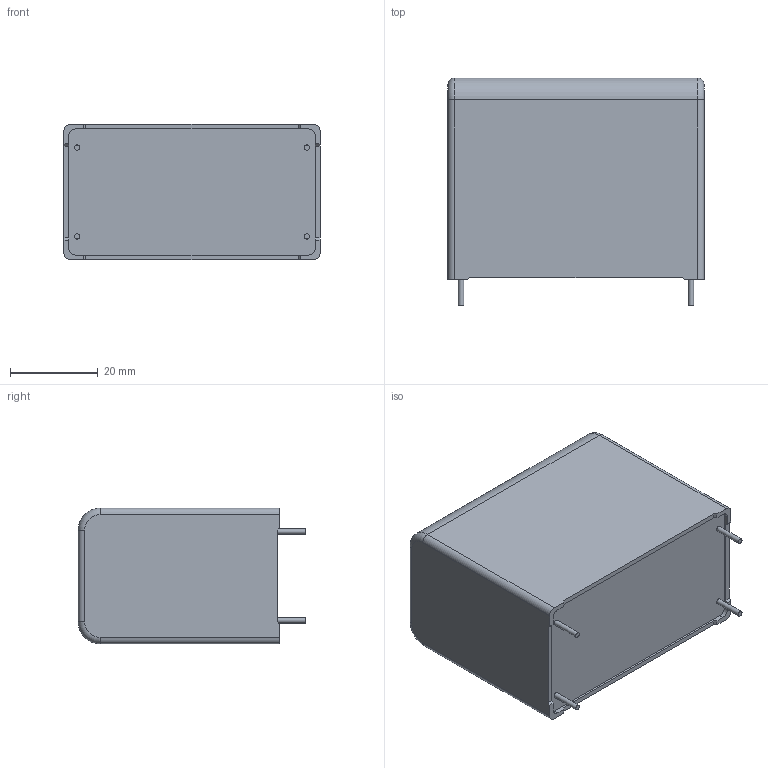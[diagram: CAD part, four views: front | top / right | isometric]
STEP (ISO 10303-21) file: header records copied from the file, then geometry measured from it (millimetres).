
FILE_DESCRIPTION (( 'STEP AP203' ), '1' );
FILE_NAME ('MKP1847H61531+Y5.step', '2018-01-17T10:52:19', ( 'work' ), ( 'Hewlett-Packard Company' ), 'SwSTEP 2.0', 'SolidWorks 2017', '' );
FILE_SCHEMA (( 'CONFIG_CONTROL_DESIGN' ));
Length unit declared in the file: millimetre
Products named in the file (1): MKP1847H61531+Y5
Bounding box: 58.5 x 52 x 31 mm (x, y, z)
Volume: 81014.2 mm3; surface area: 11566.8 mm2
Topology: 1 solids, 1 shells, 118 faces, 311 edges, 206 vertices
Faces by surface type: plane 82, cylinder 16, bspline 16, torus 4
Full cylindrical faces by diameter (mm): 1.2 x4
Entity records: 4332 total; most frequent: CARTESIAN_POINT 1448, ORIENTED_EDGE 606, DIRECTION 513, EDGE_CURVE 303, LINE 235, VECTOR 235, VERTEX_POINT 202, AXIS2_PLACEMENT_3D 139
